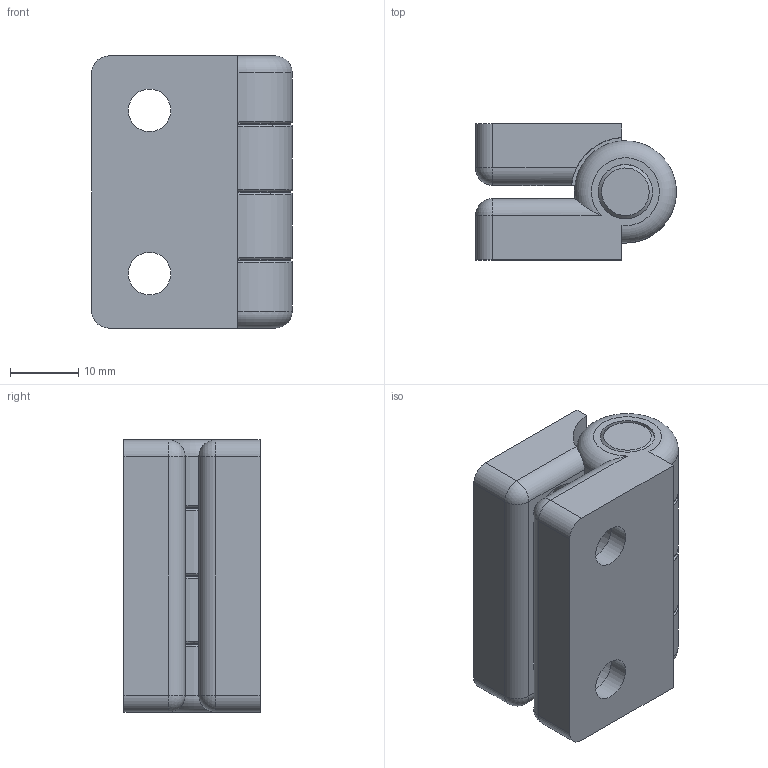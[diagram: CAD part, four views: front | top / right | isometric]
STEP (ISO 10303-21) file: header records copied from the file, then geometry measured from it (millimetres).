
FILE_DESCRIPTION (( 'STEP AP214' ), '1' );
FILE_NAME ('L19179_N30116.step', '2024-12-03T16:24:52', ( '' ), ( '' ), 'SwSTEP 2.0', 'SolidWorks 2023', '' );
FILE_SCHEMA (( 'AUTOMOTIVE_DESIGN' ));
Length unit declared in the file: millimetre
Products named in the file (3): L19179_N30116; L19179; N30116
Assembly tree (3 placements, depth 2):
  L19179_N30116
    L19179  x2
    N30116
Bounding box: 29.49 x 20 x 40 mm (x, y, z)
Volume: 16113.6 mm3; surface area: 10406.2 mm2
Topology: 5 solids, 5 shells, 322 faces, 819 edges, 509 vertices
Faces by surface type: plane 218, cylinder 86, torus 12, sphere 4, cone 2
Full cylindrical faces by diameter (mm): 2 x4, 6.25 x4, 8 x5, 10 x2
Entity records: 8466 total; most frequent: CARTESIAN_POINT 1776, ORIENTED_EDGE 1382, DIRECTION 1379, EDGE_CURVE 691, AXIS2_PLACEMENT_3D 509, VERTEX_POINT 434, LINE 361, VECTOR 361
